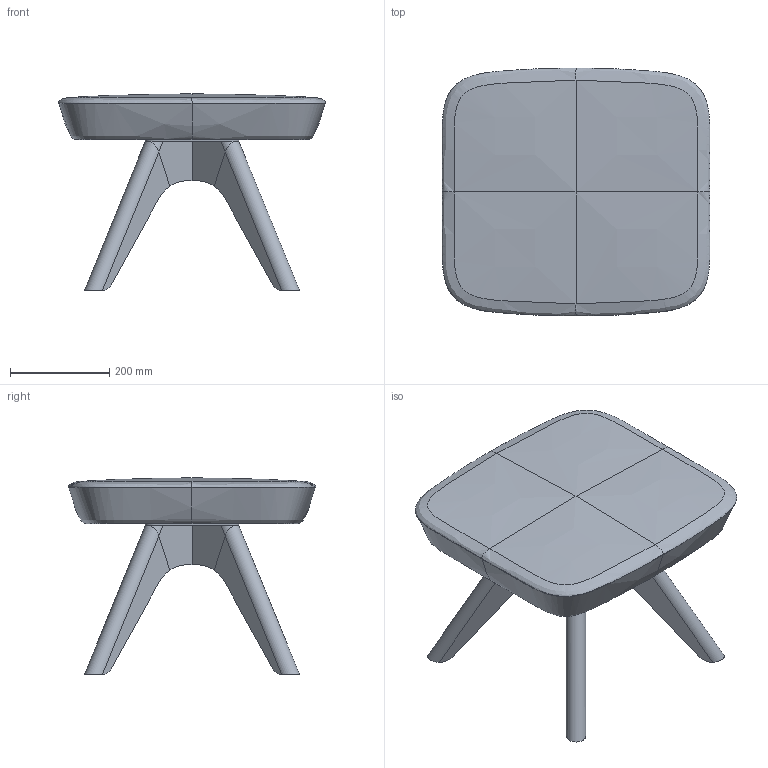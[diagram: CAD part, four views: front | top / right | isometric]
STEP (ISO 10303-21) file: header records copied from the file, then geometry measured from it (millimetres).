
FILE_DESCRIPTION(/* description */ (''),/* implementation_level */ '2;1');
FILE_NAME(/* name */ 'Winx WX 889-16',/* time_stamp */ '2021-03-30T00:46:55+02:00',/* author */ (''),/* organization */ (''),/* preprocessor_version */ 'ST-DEVELOPER v16.5',/* originating_system */ '',/* authorisation */ '');
FILE_SCHEMA (('CONFIG_CONTROL_DESIGN'));
Length unit declared in the file: millimetre
Products named in the file (1): Document
Bounding box: 538.85 x 498.85 x 395 mm (x, y, z)
Volume: 20646597.6 mm3; surface area: 984823.7 mm2
Topology: 2 solids, 6 shells, 82 faces, 203 edges, 132 vertices
Faces by surface type: plane 38, bspline 28, cylinder 16
Entity records: 3840 total; most frequent: CARTESIAN_POINT 2430, ORIENTED_EDGE 376, EDGE_CURVE 200, B_SPLINE_CURVE_WITH_KNOTS 171, VERTEX_POINT 126, ADVANCED_FACE 82, FACE_OUTER_BOUND 82, EDGE_LOOP 82
